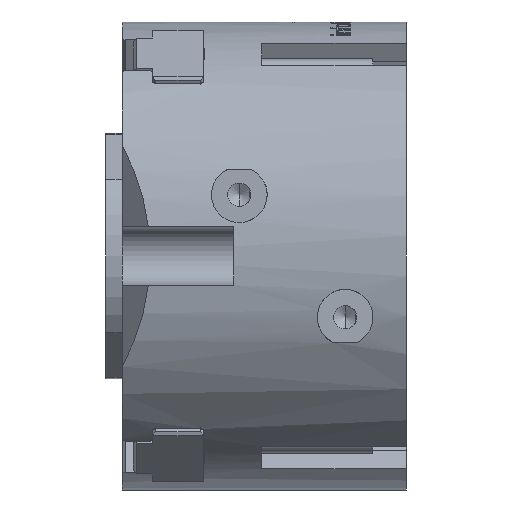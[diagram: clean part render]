
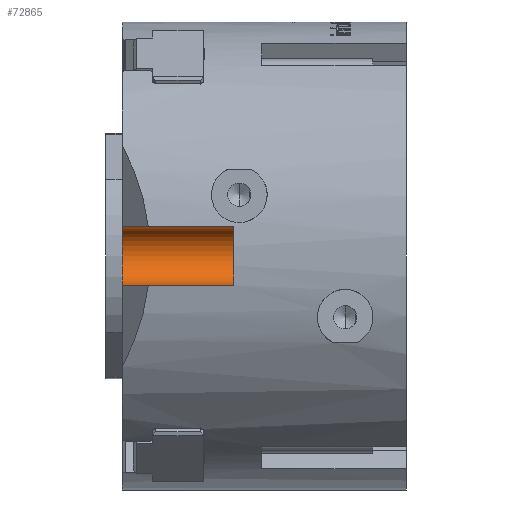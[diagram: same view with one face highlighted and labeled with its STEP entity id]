
A CAD part, left-side view. The second image highlights one B-rep face of the part: STEP entity #72865.
In plain terms, the highlighted cylindrical face has radius 5.25 mm (diameter 10.5 mm), a partial arc.
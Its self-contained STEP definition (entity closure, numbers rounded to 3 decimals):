
#7396 = LINE ( 'NONE', #44099, #48157 ) ;
#9077 = LINE ( 'NONE', #61005, #79903 ) ;
#9555 = CARTESIAN_POINT ( 'NONE',  ( -37., 31., 0. ) ) ;
#13068 = DIRECTION ( 'NONE',  ( 0., 1., 0. ) ) ;
#14067 = CARTESIAN_POINT ( 'NONE',  ( -37., 51., -5.25 ) ) ;
#14831 = CARTESIAN_POINT ( 'NONE',  ( -37., 51., 0. ) ) ;
#15333 = VERTEX_POINT ( 'NONE', #87532 ) ;
#16464 = DIRECTION ( 'NONE',  ( 0., 0., 1. ) ) ;
#19518 = DIRECTION ( 'NONE',  ( 0., 1., 0. ) ) ;
#19815 = DIRECTION ( 'NONE',  ( 0., 0., 1. ) ) ;
#21760 = DIRECTION ( 'NONE',  ( 0., 0., 1. ) ) ;
#23005 = ORIENTED_EDGE ( 'NONE', *, *, #77547, .T. ) ;
#23360 = EDGE_CURVE ( 'NONE', #34062, #39298, #7396, .T. ) ;
#25977 = EDGE_LOOP ( 'NONE', ( #69504, #69349, #23005, #56545 ) ) ;
#34062 = VERTEX_POINT ( 'NONE', #14067 ) ;
#37384 = AXIS2_PLACEMENT_3D ( 'NONE', #60839, #19518, #19815 ) ;
#39298 = VERTEX_POINT ( 'NONE', #59267 ) ;
#43126 = AXIS2_PLACEMENT_3D ( 'NONE', #14831, #62766, #21760 ) ;
#44099 = CARTESIAN_POINT ( 'NONE',  ( -37., 31., -5.25 ) ) ;
#48157 = VECTOR ( 'NONE', #85166, 1000. ) ;
#49637 = AXIS2_PLACEMENT_3D ( 'NONE', #9555, #57510, #16464 ) ;
#52702 = EDGE_CURVE ( 'NONE', #15333, #39298, #52727, .T. ) ;
#52727 = CIRCLE ( 'NONE', #49637, 5.25 ) ;
#53112 = CIRCLE ( 'NONE', #43126, 5.25 ) ;
#56545 = ORIENTED_EDGE ( 'NONE', *, *, #74803, .F. ) ;
#57510 = DIRECTION ( 'NONE',  ( 0., 1., 0. ) ) ;
#58538 = CYLINDRICAL_SURFACE ( 'NONE', #37384, 5.25 ) ;
#59267 = CARTESIAN_POINT ( 'NONE',  ( -37., 31., -5.25 ) ) ;
#60688 = FACE_OUTER_BOUND ( 'NONE', #25977, .T. ) ;
#60839 = CARTESIAN_POINT ( 'NONE',  ( -37., 31., 0. ) ) ;
#61005 = CARTESIAN_POINT ( 'NONE',  ( -37., 31., 5.25 ) ) ;
#62766 = DIRECTION ( 'NONE',  ( 0., -1., 0. ) ) ;
#69349 = ORIENTED_EDGE ( 'NONE', *, *, #52702, .F. ) ;
#69504 = ORIENTED_EDGE ( 'NONE', *, *, #23360, .T. ) ;
#72865 = ADVANCED_FACE ( 'NONE', ( #60688 ), #58538, .F. ) ;
#74803 = EDGE_CURVE ( 'NONE', #34062, #82713, #53112, .T. ) ;
#77547 = EDGE_CURVE ( 'NONE', #15333, #82713, #9077, .T. ) ;
#79903 = VECTOR ( 'NONE', #13068, 1000. ) ;
#82713 = VERTEX_POINT ( 'NONE', #84825 ) ;
#84825 = CARTESIAN_POINT ( 'NONE',  ( -37., 51., 5.25 ) ) ;
#85166 = DIRECTION ( 'NONE',  ( 0., -1., 0. ) ) ;
#87532 = CARTESIAN_POINT ( 'NONE',  ( -37., 31., 5.25 ) ) ;
